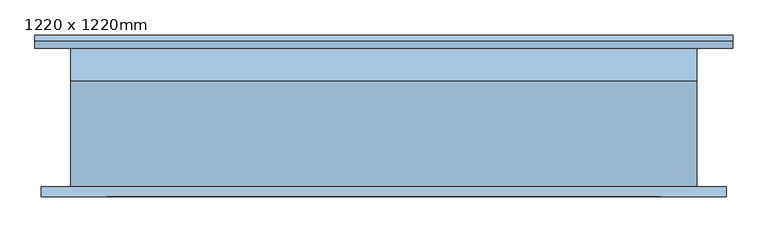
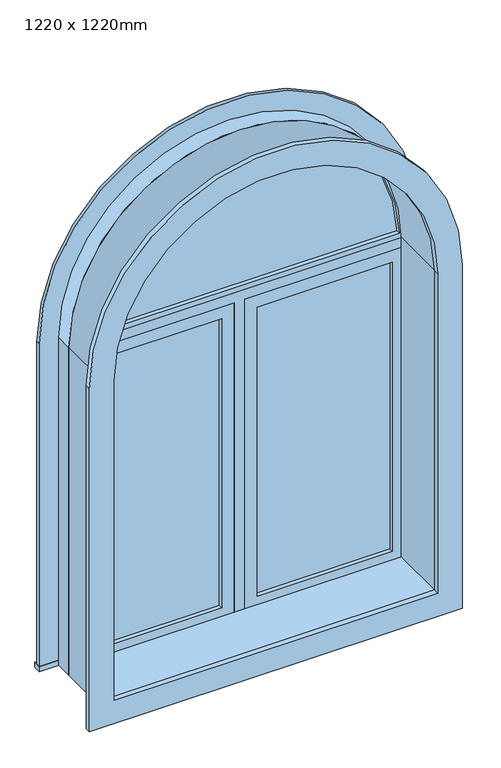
"""IFC4 building model written with IfcOpenShell, lengths in millimetres: window geometry, M_Combination Rtp with Trim : 1220 x 1220mm."""

from ifc_helpers import new_model, si_unit, point, frame, frame_2d, origin, place, context, project, spatial, polyline, circle_curve, trimmed, segment, composite_curve, outline, extrude, source, transform, mapped, element, save


def window_1220_x_1220mm_cc1a8abd(model_context):
    return source(origin(), model_context, "Body", "SweptSolid", [
        extrude(outline(composite_curve([segment(polyline([(2154.05, -659.2478419), (857.75, -659.2478419), (857.75, 675.2521581), (2154.05, 675.2521581)]), True, "CONTINUOUS"), segment(trimmed(circle_curve(frame_2d((2154.05, 8.0021581)), 667.25), [point((2154.05, 675.2521581))], [point((2154.05, -659.2478419))], False, "CARTESIAN"), True, "CONTINUOUS")], self_intersect=False), holes=[composite_curve([segment(trimmed(circle_curve(frame_2d((2154.05, 8.0021581)), 578.25), [point((2154.05, -570.2478419))], [point((2154.05, 586.2521581))], True, "CARTESIAN"), True, "CONTINUOUS"), segment(polyline([(2154.05, 586.2521581), (946.75, 586.2521581), (946.75, -570.2478419), (2154.05, -570.2478419)]), True, "CONTINUOUS")], self_intersect=False)]), frame((0.0, -154.0, 0.0), z_axis=(0.0, 1.0, 0.0), x_axis=(0.0, 0.0, 1.0)), (0.0, 0.0, 1.0), 19.0),
        extrude(outline(composite_curve([segment(trimmed(circle_curve(frame_2d((2154.05, 8.0021581)), 571.8997779), [point((2173.0999995, 579.5845699))], [point((2173.0999995, -563.5802537))], False, "CARTESIAN"), True, "CONTINUOUS"), segment(polyline([(2173.0999995, -563.5802537), (2173.0999995, 579.5845699)]), True, "CONTINUOUS")], self_intersect=False)), frame((0.0, 87.425, 0.0), z_axis=(0.0, 1.0, 0.0), x_axis=(0.0, 0.0, 1.0)), (0.0, 0.0, 1.0), 12.7),
        extrude(outline(composite_curve([segment(trimmed(circle_curve(frame_2d((2154.05, 8.0021581)), 590.95), [point((2154.05, 598.9521581))], [point((2154.05, -582.9478419))], False, "CARTESIAN"), True, "CONTINUOUS"), segment(polyline([(2154.05, -582.9478419), (2154.05, 598.9521581)]), True, "CONTINUOUS")], self_intersect=False), holes=[composite_curve([segment(polyline([(2173.0999995, 579.5845698), (2173.0999995, -563.5802537)]), True, "CONTINUOUS"), segment(trimmed(circle_curve(frame_2d((2154.05, 8.0021581)), 571.8997779), [point((2173.0999995, -563.5802537))], [point((2173.0999995, 579.5845698))], True, "CARTESIAN"), True, "CONTINUOUS")], self_intersect=False)]), frame((0.0, 71.55, 0.0), z_axis=(0.0, 1.0, 0.0), x_axis=(0.0, 0.0, 1.0)), (0.0, 0.0, 1.0), 44.45),
        extrude(outline(composite_curve([segment(polyline([(915.0, -601.9978419), (915.0, 618.0021581), (2154.05, 618.0021581)]), True, "CONTINUOUS"), segment(trimmed(circle_curve(frame_2d((2154.05, 8.0021581)), 610.0), [point((2154.05, 618.0021581))], [point((2154.05, -601.9978419))], False, "CARTESIAN"), True, "CONTINUOUS"), segment(polyline([(2154.05, -601.9978419), (915.0, -601.9978419)]), True, "CONTINUOUS")], self_intersect=False), holes=[composite_curve([segment(polyline([(934.05, -582.9478419), (2154.05, -582.9478419)]), True, "CONTINUOUS"), segment(trimmed(circle_curve(frame_2d((2154.05, 8.0021581)), 590.95), [point((2154.05, -582.9478419))], [point((2154.05, 598.9521581))], True, "CARTESIAN"), True, "CONTINUOUS"), segment(polyline([(2154.05, 598.9521581), (934.05, 598.9521581), (934.05, -582.9478419)]), True, "CONTINUOUS")], self_intersect=False)]), frame((0.0, 71.55, 0.0), z_axis=(0.0, 1.0, 0.0), x_axis=(0.0, 0.0, 1.0)), (0.0, 0.0, 1.0), 63.45),
        extrude(outline(polyline([(71.5021581, 100.125), (554.5021581, 100.125), (554.5021581, 87.425), (71.5021581, 87.425), (71.5021581, 100.125)])), frame((0.0, 0.0, 978.5), z_axis=(0.0, 0.0, 1.0), x_axis=(1.0, 0.0, 0.0)), (0.0, 0.0, 1.0), 1093.0),
        extrude(outline(polyline([(2115.95, 27.0521581), (934.05, 27.0521581), (934.05, 598.9521581), (2115.95, 598.9521581), (2115.95, 27.0521581)]), holes=[polyline([(2071.5, 71.5021581), (2071.5, 554.5021581), (978.5, 554.5021581), (978.5, 71.5021581), (2071.5, 71.5021581)])]), frame((0.0, 71.55, 0.0), z_axis=(0.0, 1.0, 0.0), x_axis=(0.0, 0.0, 1.0)), (0.0, 0.0, 1.0), 44.45),
        extrude(outline(polyline([(934.05, -11.0478419), (934.05, 27.0521581), (2115.95, 27.0521581), (2115.95, 598.9521581), (2154.05, 598.9521581), (2154.05, -582.9478419), (2115.95, -582.9478419), (2115.95, -11.0478419), (934.05, -11.0478419)])), frame((0.0, 71.55, 0.0), z_axis=(0.0, 1.0, 0.0), x_axis=(0.0, 0.0, 1.0)), (0.0, 0.0, 1.0), 63.5),
        extrude(outline(polyline([(-671.9478419, 160.7), (687.9521581, 160.7), (687.9521581, 135.0), (-671.9478419, 135.0), (-671.9478419, 160.7)])), frame((0.0, 0.0, 915.0), z_axis=(0.0, 0.0, 1.0), x_axis=(1.0, 0.0, 0.0)), (0.0, 0.0, 1.0), 19.05),
        extrude(outline(composite_curve([segment(polyline([(934.05, 598.9521581), (934.05, 687.9521581), (2154.05, 687.9521581)]), True, "CONTINUOUS"), segment(trimmed(circle_curve(frame_2d((2154.05, 8.0021581)), 679.95), [point((2154.05, 687.9521581))], [point((2154.05, -671.9478419))], False, "CARTESIAN"), True, "CONTINUOUS"), segment(polyline([(2154.05, -671.9478419), (934.05, -671.9478419), (934.05, -582.9478419), (2154.05, -582.9478419)]), True, "CONTINUOUS"), segment(trimmed(circle_curve(frame_2d((2154.05, 8.0021581)), 590.95), [point((2154.05, -582.9478419))], [point((2154.05, 598.9521581))], True, "CARTESIAN"), True, "CONTINUOUS"), segment(polyline([(2154.05, 598.9521581), (934.05, 598.9521581)]), True, "CONTINUOUS")], self_intersect=False)), frame((0.0, 135.0, 0.0), z_axis=(0.0, 1.0, 0.0), x_axis=(0.0, 0.0, 1.0)), (0.0, 0.0, 1.0), 13.0),
        extrude(outline(polyline([(-55.4978419, 87.425), (-538.4978419, 87.425), (-538.4978419, 100.125), (-55.4978419, 100.125), (-55.4978419, 87.425)])), frame((0.0, 0.0, 978.5), z_axis=(0.0, 0.0, 1.0), x_axis=(1.0, 0.0, 0.0)), (0.0, 0.0, 1.0), 1093.0),
        extrude(outline(polyline([(2115.95, -582.9478419), (934.05, -582.9478419), (934.05, -11.0478419), (2115.95, -11.0478419), (2115.95, -582.9478419)]), holes=[polyline([(2071.5, -538.4978419), (2071.5, -55.4978419), (978.5, -55.4978419), (978.5, -538.4978419), (2071.5, -538.4978419)])]), frame((0.0, 71.55, 0.0), z_axis=(0.0, 1.0, 0.0), x_axis=(0.0, 0.0, 1.0)), (0.0, 0.0, 1.0), 44.45),
        extrude(outline(composite_curve([segment(polyline([(915.0, 618.0021581), (2154.05, 618.0021581)]), True, "CONTINUOUS"), segment(trimmed(circle_curve(frame_2d((2154.05, 8.0021581)), 610.0), [point((2154.05, 618.0021581))], [point((2154.05, -601.9978419))], False, "CARTESIAN"), True, "CONTINUOUS"), segment(polyline([(2154.05, -601.9978419), (915.0, -601.9978419), (915.0, 618.0021581)]), True, "CONTINUOUS")], self_intersect=False), holes=[composite_curve([segment(polyline([(946.75, 586.2521581), (946.75, -570.2478419), (2154.05, -570.2478419)]), True, "CONTINUOUS"), segment(trimmed(circle_curve(frame_2d((2154.05, 8.0021581)), 578.25), [point((2154.05, -570.2478419))], [point((2154.05, 586.2521581))], True, "CARTESIAN"), True, "CONTINUOUS"), segment(polyline([(2154.05, 586.2521581), (946.75, 586.2521581)]), True, "CONTINUOUS")], self_intersect=False)]), frame((0.0, -135.0, 0.0), z_axis=(0.0, 1.0, 0.0), x_axis=(0.0, 0.0, 1.0)), (0.0, 0.0, 1.0), 206.55),
    ])


if __name__ == "__main__":
    model = new_model("IFC4")
    model_context = context("Model", 3, world=origin())
    ifc_project = project(units=[si_unit("LENGTHUNIT", "METRE", prefix="MILLI")], contexts=[model_context])
    site = spatial("IfcSite", under=ifc_project)
    building = spatial("IfcBuilding", under=site)
    placement = place(None, origin())
    window_1220_x_1220mm_shape = window_1220_x_1220mm_cc1a8abd(model_context)
    element("IfcWindow", 1, ObjectType="M_Combination Rtp with Trim : 1220 x 1220mm", at=placement, inside=building, context=model_context, shape_type="MappedRepresentation", body=[
        mapped(window_1220_x_1220mm_shape, transform((0.0, 0.0, 0.0), x_axis=(1.0, 0.0, 0.0), y_axis=(0.0, 1.0, 0.0), z_axis=(0.0, 0.0, 1.0))),
    ])
    save(model, "model.ifc")
